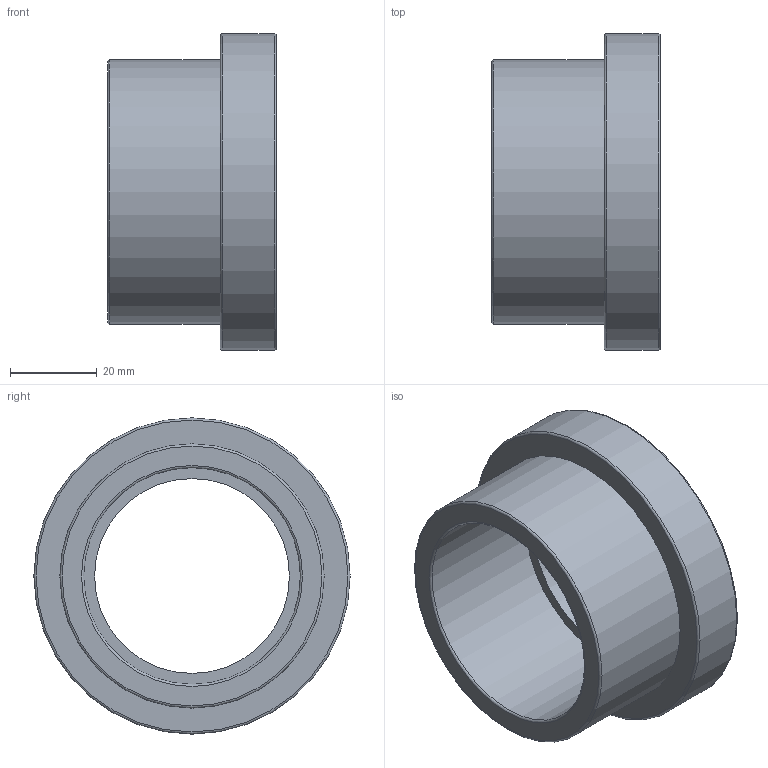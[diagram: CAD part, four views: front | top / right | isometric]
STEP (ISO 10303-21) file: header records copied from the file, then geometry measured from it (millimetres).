
FILE_DESCRIPTION(/* description */ ('PLASSON FLANGE AD.+O-RING-CE 50'),/* implementation_level */ '2;1');
FILE_NAME(/* name */ 'C:\Dropbox\KIMPROJECTS-Inventor\99-16-3568-Processing\PVC Catalog 2017\055000\055000050.ipt.stp',/* time_stamp */ '2017-12-07T16:04:36+02:00',/* author */ ('KIM'),/* organization */ (''),/* preprocessor_version */ 'ST-DEVELOPER v15.6',/* originating_system */ 'Autodesk Inventor 2015',/* authorisation */ '');
FILE_SCHEMA (('AUTOMOTIVE_DESIGN { 1 0 10303 214 3 1 1 }'));
Length unit declared in the file: millimetre
Products named in the file (1): 055000050
Bounding box: 39 x 73 x 73 mm (x, y, z)
Volume: 53715.4 mm3; surface area: 20237.2 mm2
Topology: 1 solids, 1 shells, 21 faces, 36 edges, 21 vertices
Faces by surface type: torus 9, plane 6, cylinder 6
Full cylindrical faces by diameter (mm): 45 x1, 50 x1, 54.8 x1, 61 x1, 63.2 x1, 73 x1
Entity records: 452 total; most frequent: DIRECTION 86, CARTESIAN_POINT 64, AXIS2_PLACEMENT_3D 43, EDGE_LOOP 42, ORIENTED_EDGE 42, FACE_BOUND 21, FACE_OUTER_BOUND 21, CIRCLE 21
